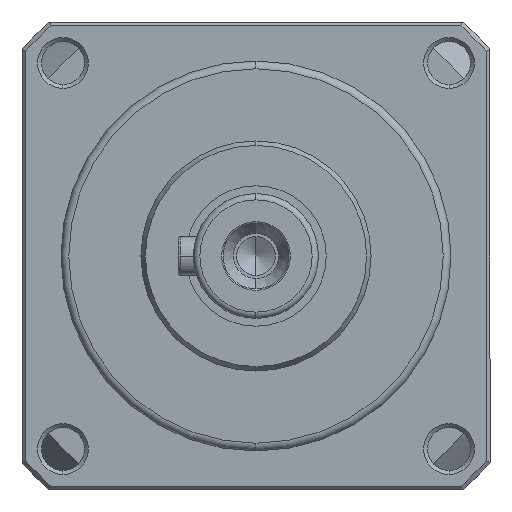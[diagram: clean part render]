
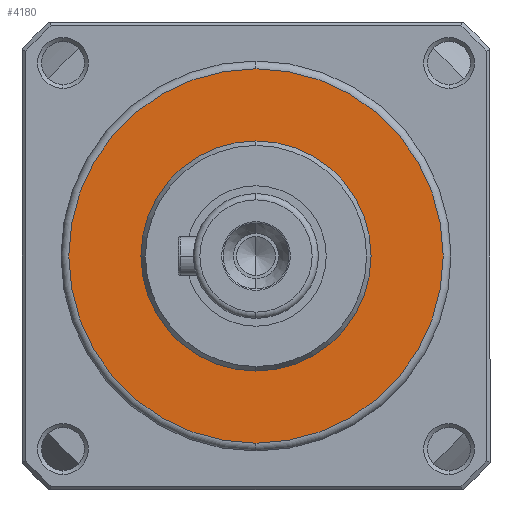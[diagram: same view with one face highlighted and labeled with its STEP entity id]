
A CAD part, left-side view. The second image highlights one B-rep face of the part: STEP entity #4180.
In plain terms, the highlighted planar face has unit normal (-1, 0, 0).
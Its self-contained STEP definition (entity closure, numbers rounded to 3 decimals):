
#165 = ORIENTED_EDGE ( 'NONE', *, *, #3767, .F. ) ;
#314 = EDGE_CURVE ( 'NONE', #5897, #5573, #6190, .T. ) ;
#536 = CARTESIAN_POINT ( 'NONE',  ( 30., 14.75, 0. ) ) ;
#610 = AXIS2_PLACEMENT_3D ( 'NONE', #4692, #1003, #8266 ) ;
#743 = EDGE_LOOP ( 'NONE', ( #8017, #165 ) ) ;
#834 = EDGE_CURVE ( 'NONE', #6655, #6356, #1295, .T. ) ;
#1003 = DIRECTION ( 'NONE',  ( -1., 0., 0. ) ) ;
#1024 = DIRECTION ( 'NONE',  ( 0., 0., -1. ) ) ;
#1295 = CIRCLE ( 'NONE', #8434, 14.75 ) ;
#1370 = DIRECTION ( 'NONE',  ( -1., 0., 0. ) ) ;
#1631 = CARTESIAN_POINT ( 'NONE',  ( 30., 0., 0. ) ) ;
#1899 = CIRCLE ( 'NONE', #8697, 24. ) ;
#2331 = CARTESIAN_POINT ( 'NONE',  ( 30., 0., 0. ) ) ;
#3767 = EDGE_CURVE ( 'NONE', #6356, #6655, #7387, .T. ) ;
#4180 = ADVANCED_FACE ( 'NONE', ( #5310, #8641 ), #6972, .F. ) ;
#4585 = EDGE_LOOP ( 'NONE', ( #7674, #7734 ) ) ;
#4692 = CARTESIAN_POINT ( 'NONE',  ( 30., 0., 0. ) ) ;
#5244 = EDGE_CURVE ( 'NONE', #5573, #5897, #1899, .T. ) ;
#5252 = CARTESIAN_POINT ( 'NONE',  ( 30., 0., -24. ) ) ;
#5310 = FACE_OUTER_BOUND ( 'NONE', #4585, .T. ) ;
#5489 = AXIS2_PLACEMENT_3D ( 'NONE', #5555, #1370, #9364 ) ;
#5555 = CARTESIAN_POINT ( 'NONE',  ( 30., 0., 0. ) ) ;
#5573 = VERTEX_POINT ( 'NONE', #8479 ) ;
#5643 = CARTESIAN_POINT ( 'NONE',  ( 30., 0., -14.75 ) ) ;
#5895 = DIRECTION ( 'NONE',  ( -1., 0., 0. ) ) ;
#5897 = VERTEX_POINT ( 'NONE', #5252 ) ;
#6190 = CIRCLE ( 'NONE', #5489, 24. ) ;
#6356 = VERTEX_POINT ( 'NONE', #5643 ) ;
#6655 = VERTEX_POINT ( 'NONE', #6920 ) ;
#6920 = CARTESIAN_POINT ( 'NONE',  ( 30., 0., 14.75 ) ) ;
#6949 = DIRECTION ( 'NONE',  ( 0., 0., -1. ) ) ;
#6972 = PLANE ( 'NONE',  #8581 ) ;
#7387 = CIRCLE ( 'NONE', #610, 14.75 ) ;
#7674 = ORIENTED_EDGE ( 'NONE', *, *, #314, .T. ) ;
#7734 = ORIENTED_EDGE ( 'NONE', *, *, #5244, .T. ) ;
#8017 = ORIENTED_EDGE ( 'NONE', *, *, #834, .F. ) ;
#8150 = DIRECTION ( 'NONE',  ( 0., 0., 1. ) ) ;
#8266 = DIRECTION ( 'NONE',  ( 0., 0., 1. ) ) ;
#8434 = AXIS2_PLACEMENT_3D ( 'NONE', #2331, #5895, #8150 ) ;
#8479 = CARTESIAN_POINT ( 'NONE',  ( 30., 0., 24. ) ) ;
#8504 = DIRECTION ( 'NONE',  ( 1., 0., 0. ) ) ;
#8581 = AXIS2_PLACEMENT_3D ( 'NONE', #536, #8504, #6949 ) ;
#8641 = FACE_BOUND ( 'NONE', #743, .T. ) ;
#8697 = AXIS2_PLACEMENT_3D ( 'NONE', #1631, #8887, #1024 ) ;
#8887 = DIRECTION ( 'NONE',  ( -1., 0., 0. ) ) ;
#9364 = DIRECTION ( 'NONE',  ( 0., 0., -1. ) ) ;
